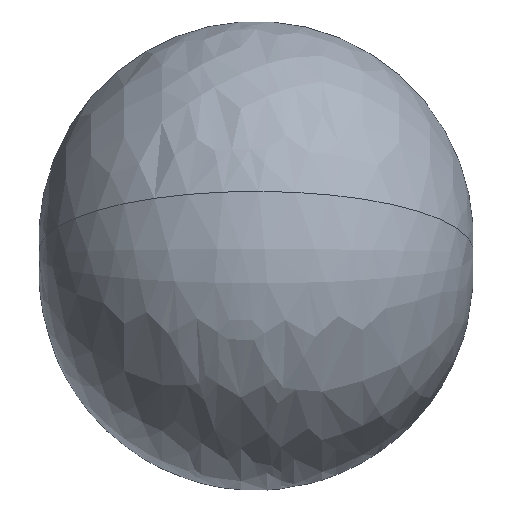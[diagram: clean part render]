
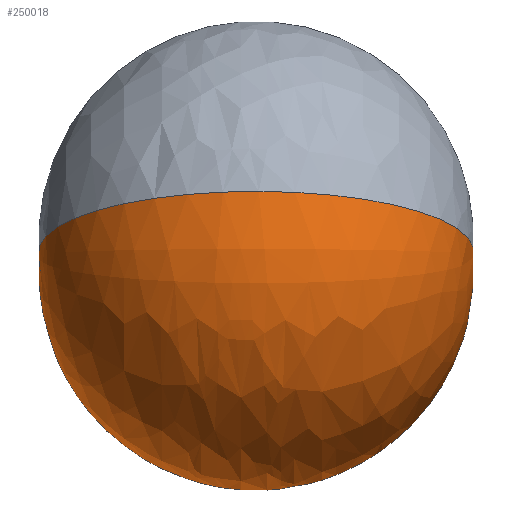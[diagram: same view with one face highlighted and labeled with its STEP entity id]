
A CAD part, left-side view. The second image highlights one B-rep face of the part: STEP entity #250018.
In plain terms, the highlighted free-form (B-spline) face has degree [3, 3] with [7, 4] control points.
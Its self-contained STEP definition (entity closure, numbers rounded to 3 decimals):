
#171 = CARTESIAN_POINT ( 'NONE',  ( -155., 1889.654, 0. ) ) ;
#3148 = CARTESIAN_POINT ( 'NONE',  ( -155., 134.308, -2046.237 ) ) ;
#6408 = DIRECTION ( 'NONE',  ( 0., 0., -1. ) ) ;
#14994 = CARTESIAN_POINT ( 'NONE',  ( -155., -1892.594, -268.6 ) ) ;
#22665 = CARTESIAN_POINT ( 'NONE',  ( -155., 1889.654, 0. ) ) ;
#37386 = CIRCLE ( 'NONE', #109106, 1896. ) ;
#45168 = CARTESIAN_POINT ( 'NONE',  ( -155., -1892.594, 268.6 ) ) ;
#58895 = CARTESIAN_POINT ( 'NONE',  ( -155., -1892.594, 268.6 ) ) ;
#67664 = CARTESIAN_POINT ( 'NONE',  ( -155., 1981.241, -1116.564 ) ) ;
#69158 = CARTESIAN_POINT ( 'NONE',  ( -155., 1251.808, -1966.877 ) ) ;
#72129 = CARTESIAN_POINT ( 'NONE',  ( -4406.195, -983.192, -2125.597 ) ) ;
#72733 = CARTESIAN_POINT ( 'NONE',  ( -155., 1889.654, 0. ) ) ;
#73593 = CARTESIAN_POINT ( 'NONE',  ( -155., -1825.469, -1386.901 ) ) ;
#90196 = CARTESIAN_POINT ( 'NONE',  ( -4088.753, 1251.808, 1966.877 ) ) ;
#90450 = DIRECTION ( 'NONE',  ( 0., 1., 0. ) ) ;
#91684 = CARTESIAN_POINT ( 'NONE',  ( -155., 1889.654, 0. ) ) ;
#94670 = CARTESIAN_POINT ( 'NONE',  ( -155., 1251.808, 1966.877 ) ) ;
#102338 = EDGE_CURVE ( 'NONE', #227792, #138410, #217022, .T. ) ;
#109106 = AXIS2_PLACEMENT_3D ( 'NONE', #211910, #209000, #6408 ) ;
#115602 = CARTESIAN_POINT ( 'NONE',  ( -4247.474, 134.308, 2046.237 ) ) ;
#117082 = DIRECTION ( 'NONE',  ( 0., 0., 1. ) ) ;
#118588 = CARTESIAN_POINT ( 'NONE',  ( -155., 134.308, 2046.237 ) ) ;
#136651 = CARTESIAN_POINT ( 'NONE',  ( -2928.803, -1825.469, -1386.901 ) ) ;
#138410 = VERTEX_POINT ( 'NONE', #58895 ) ;
#141119 = CARTESIAN_POINT ( 'NONE',  ( -155., -1825.469, 1386.901 ) ) ;
#142591 = CARTESIAN_POINT ( 'NONE',  ( -692.2, -1892.594, -268.6 ) ) ;
#147337 = EDGE_CURVE ( 'NONE', #227792, #237529, #37386, .T. ) ;
#163631 = CARTESIAN_POINT ( 'NONE',  ( -2388.128, 1981.241, 1116.564 ) ) ;
#165121 = CARTESIAN_POINT ( 'NONE',  ( -155., -983.192, 2125.597 ) ) ;
#181674 = CARTESIAN_POINT ( 'NONE',  ( -2388.128, 1981.241, -1116.564 ) ) ;
#186166 = CARTESIAN_POINT ( 'NONE',  ( -155., 1981.241, 1116.564 ) ) ;
#196533 = EDGE_LOOP ( 'NONE', ( #267894, #273555, #225725 ) ) ;
#200543 = AXIS2_PLACEMENT_3D ( 'NONE', #231081, #207174, #117082 ) ;
#202726 = AXIS2_PLACEMENT_3D ( 'NONE', #231349, #90450, #228378 ) ;
#204210 = CARTESIAN_POINT ( 'NONE',  ( -155., -1892.594, -268.6 ) ) ;
#205693 = CARTESIAN_POINT ( 'NONE',  ( -155., -983.192, -2125.597 ) ) ;
#207174 = DIRECTION ( 'NONE',  ( -1., 0., 0. ) ) ;
#208668 = CARTESIAN_POINT ( 'NONE',  ( -4247.474, 134.308, -2046.237 ) ) ;
#209000 = DIRECTION ( 'NONE',  ( 1., 0., 0. ) ) ;
#211910 = CARTESIAN_POINT ( 'NONE',  ( -155., 0., -155. ) ) ;
#217022 = CIRCLE ( 'NONE', #202726, 268.6 ) ;
#225725 = ORIENTED_EDGE ( 'NONE', *, *, #147337, .F. ) ;
#227792 = VERTEX_POINT ( 'NONE', #14994 ) ;
#228125 = CARTESIAN_POINT ( 'NONE',  ( -155., 1889.654, 0. ) ) ;
#228378 = DIRECTION ( 'NONE',  ( 0., 0., -1. ) ) ;
#231081 = CARTESIAN_POINT ( 'NONE',  ( -155., 0., 155. ) ) ;
#231349 = CARTESIAN_POINT ( 'NONE',  ( -155., -1892.594, 0. ) ) ;
#237529 = VERTEX_POINT ( 'NONE', #72733 ) ;
#250018 = ADVANCED_FACE ( 'NONE', ( #279063 ), #272718, .T. ) ;
#256590 = CARTESIAN_POINT ( 'NONE',  ( -692.2, -1892.594, 268.6 ) ) ;
#257453 = EDGE_CURVE ( 'NONE', #138410, #237529, #281838, .T. ) ;
#267894 = ORIENTED_EDGE ( 'NONE', *, *, #102338, .T. ) ;
#272718 =( BOUNDED_SURFACE ( )  B_SPLINE_SURFACE ( 3, 3, ( 
 ( #45168, #256590, #142591, #204210 ),
 ( #141119, #276111, #136651, #73593 ),
 ( #165121, #295674, #72129, #205693 ),
 ( #118588, #115602, #208668, #3148 ),
 ( #94670, #90196, #274622, #69158 ),
 ( #186166, #163631, #181674, #67664 ),
 ( #228125, #22665, #171, #91684 ) ),
 .UNSPECIFIED., .F., .F., .T. ) 
 B_SPLINE_SURFACE_WITH_KNOTS ( ( 4, 3, 4 ),
 ( 4, 4 ),
 ( 0., 0.5, 1. ),
 ( 0., 1. ),
 .UNSPECIFIED. ) 
 GEOMETRIC_REPRESENTATION_ITEM ( )  RATIONAL_B_SPLINE_SURFACE ( (
 ( 1., 0.333, 0.333, 1.),
 ( 0.802, 0.267, 0.267, 0.802),
 ( 0.802, 0.267, 0.267, 0.802),
 ( 1., 0.333, 0.333, 1.),
 ( 0.802, 0.267, 0.267, 0.802),
 ( 0.802, 0.267, 0.267, 0.802),
 ( 1., 0.333, 0.333, 1.) ) ) 
 REPRESENTATION_ITEM ( '' )  SURFACE ( )  );
#273555 = ORIENTED_EDGE ( 'NONE', *, *, #257453, .T. ) ;
#274622 = CARTESIAN_POINT ( 'NONE',  ( -4088.753, 1251.808, -1966.877 ) ) ;
#276111 = CARTESIAN_POINT ( 'NONE',  ( -2928.803, -1825.469, 1386.901 ) ) ;
#279063 = FACE_OUTER_BOUND ( 'NONE', #196533, .T. ) ;
#281838 = CIRCLE ( 'NONE', #200543, 1896. ) ;
#295674 = CARTESIAN_POINT ( 'NONE',  ( -4406.195, -983.192, 2125.597 ) ) ;
